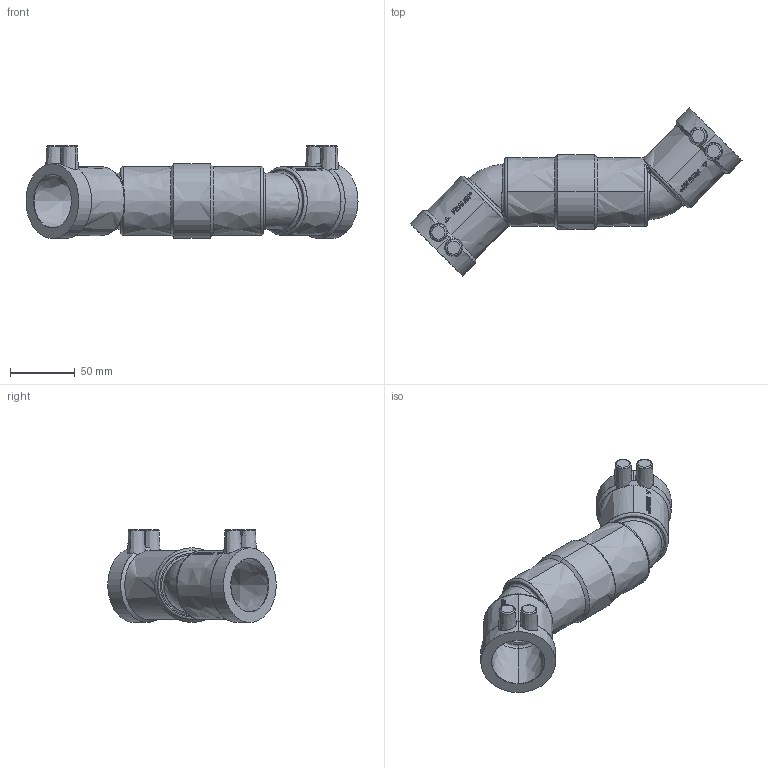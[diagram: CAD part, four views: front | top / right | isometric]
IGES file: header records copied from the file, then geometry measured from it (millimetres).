
Start section:  PTC IGES file: wet_d040_01.igs
Global section: file name: wet_d040_01.igs; native system: Pro/ENGINEER by Parametric Technology Corporation; preprocessor: 2011490; author: mtunjic; organization: Unknown; date: 20130812.103046; units: millimetre
Bounding box: 255.75 x 129.75 x 71.55 mm (x, y, z)
Surface area: 102193.3 mm2 (no closed solid volume)
Topology: 0 solids, 0 shells, 371 faces, 1876 edges, 1876 vertices
Faces by surface type: bspline 371
